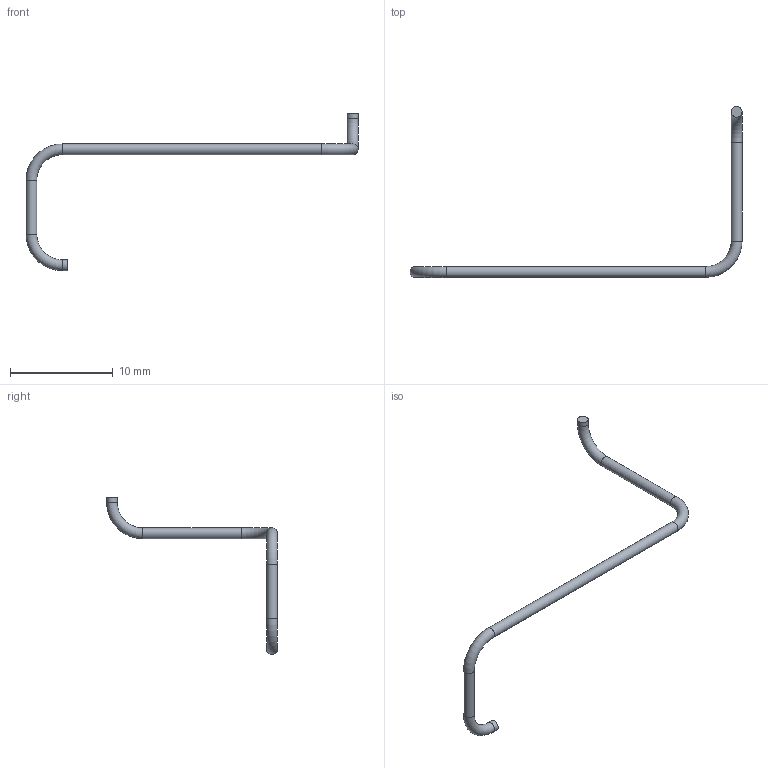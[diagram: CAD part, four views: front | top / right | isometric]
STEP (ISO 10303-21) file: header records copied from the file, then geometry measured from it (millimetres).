
FILE_DESCRIPTION(('Open CASCADE Model'),'2;1');
FILE_NAME('R36_J3_MIC_CK_PIGTAIL_3_OD1p05_R3','2026-09-15T14:09:12',( 'Author'),('Open CASCADE'),'Open CASCADE STEP processor 7.9', 'build123d','Unknown');
FILE_SCHEMA(('AUTOMOTIVE_DESIGN { 1 0 10303 214 1 1 1 1 }'));
Length unit declared in the file: millimetre
Products named in the file (1): R36_J3_MIC_CK_PIGTAIL_3_OD1p05_R3
Bounding box: 32.28 x 16.61 x 15.29 mm (x, y, z)
Volume: 51.9 mm3; surface area: 199.3 mm2
Topology: 1 solids, 1 shells, 11 faces, 19 edges, 10 vertices
Faces by surface type: cylinder 5, torus 4, plane 2
Full cylindrical faces by diameter (mm): 1.05 x5
Entity records: 503 total; most frequent: CARTESIAN_POINT 96, DIRECTION 78, ORIENTED_EDGE 38, PCURVE 38, DEFINITIONAL_REPRESENTATION 38, AXIS2_PLACEMENT_3D 26, LINE 24, VECTOR 24
